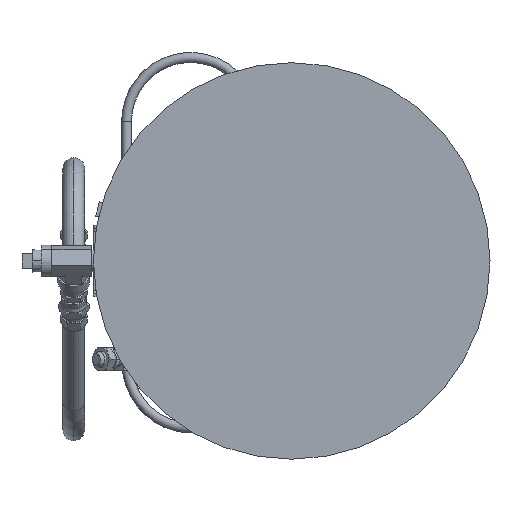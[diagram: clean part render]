
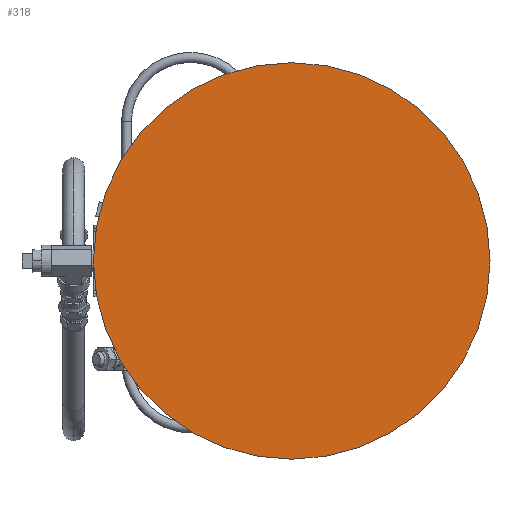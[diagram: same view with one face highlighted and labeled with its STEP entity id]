
A CAD part, front view. The second image highlights one B-rep face of the part: STEP entity #318.
In plain terms, the highlighted planar face has unit normal (0, -1, 0).
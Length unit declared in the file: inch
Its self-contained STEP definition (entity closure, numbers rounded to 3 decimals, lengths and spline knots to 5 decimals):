
#271=CARTESIAN_POINT('',(0.,-0.177,0.));
#272=DIRECTION('',(0.,-1.,0.));
#273=DIRECTION('',(-1.,0.,0.));
#274=AXIS2_PLACEMENT_3D('',#271,#272,#273);
#276=CARTESIAN_POINT('',(0.,-0.177,0.));
#277=DIRECTION('',(0.,1.,0.));
#278=DIRECTION('',(-1.,0.,0.));
#279=AXIS2_PLACEMENT_3D('',#276,#277,#278);
#300=CARTESIAN_POINT('',(-7.5,-0.177,0.));
#302=VERTEX_POINT('',#300);
#304=CARTESIAN_POINT('',(7.5,-0.177,0.));
#306=VERTEX_POINT('',#304);
#307=CARTESIAN_POINT('',(0.,-0.177,0.));
#308=DIRECTION('',(0.,1.,0.));
#309=DIRECTION('',(1.,0.,0.));
#310=AXIS2_PLACEMENT_3D('',#307,#308,#309);
#311=PLANE('',#310);
#313=ORIENTED_EDGE('',*,*,#312,.F.);
#315=ORIENTED_EDGE('',*,*,#314,.T.);
#316=EDGE_LOOP('',(#313,#315));
#317=FACE_OUTER_BOUND('',#316,.F.);
#318=ADVANCED_FACE('',(#317),#311,.F.);
#275=CIRCLE('',#274,7.5);
#280=CIRCLE('',#279,7.5);
#312=EDGE_CURVE('',#302,#306,#275,.T.);
#314=EDGE_CURVE('',#302,#306,#280,.T.);
